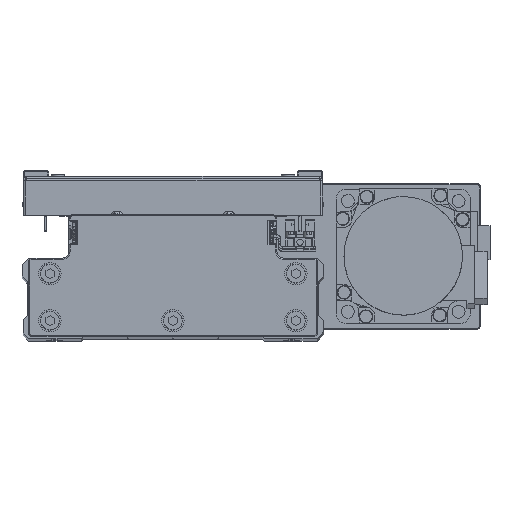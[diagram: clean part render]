
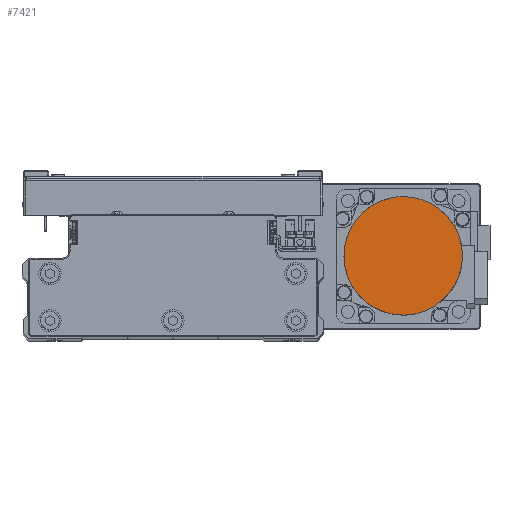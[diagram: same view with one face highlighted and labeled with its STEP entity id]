
A CAD part, top view. The second image highlights one B-rep face of the part: STEP entity #7421.
In plain terms, the highlighted planar face has unit normal (0, 0, 1) as drawn and (0, 0, -1) by its records, which use the part's own axes.
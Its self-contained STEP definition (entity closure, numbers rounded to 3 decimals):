
#38 = CARTESIAN_POINT ( 'NONE',  ( -19.965, -17.512, -109.7 ) ) ;
#257 = CARTESIAN_POINT ( 'NONE',  ( 11.744, -23.819, -109.7 ) ) ;
#471 = CARTESIAN_POINT ( 'NONE',  ( 17.512, 19.965, -109.7 ) ) ;
#675 = CARTESIAN_POINT ( 'NONE',  ( -13.28, 22.998, -109.7 ) ) ;
#3378 = CARTESIAN_POINT ( 'NONE',  ( -23.819, -11.744, -109.7 ) ) ;
#3582 = CARTESIAN_POINT ( 'NONE',  ( 3.469, -26.329, -109.7 ) ) ;
#3763 = CARTESIAN_POINT ( 'NONE',  ( 0., 0., -109.7 ) ) ;
#3779 = CARTESIAN_POINT ( 'NONE',  ( 22.998, 13.28, -109.7 ) ) ;
#3798 = CARTESIAN_POINT ( 'NONE',  ( 26.329, -3.469, -109.7 ) ) ;
#4003 = CARTESIAN_POINT ( 'NONE',  ( -6.871, 25.652, -109.7 ) ) ;
#4216 = CARTESIAN_POINT ( 'NONE',  ( -26.5, 1.734, -109.7 ) ) ;
#6671 = CARTESIAN_POINT ( 'NONE',  ( -26.329, -3.469, -109.7 ) ) ;
#6897 = CARTESIAN_POINT ( 'NONE',  ( -3.469, -26.329, -109.7 ) ) ;
#7087 = CARTESIAN_POINT ( 'NONE',  ( 25.652, 6.871, -109.7 ) ) ;
#7107 = CARTESIAN_POINT ( 'NONE',  ( 23.819, -11.744, -109.7 ) ) ;
#7307 = CARTESIAN_POINT ( 'NONE',  ( 1.734, 26.5, -109.7 ) ) ;
#7421 = ADVANCED_FACE ( 'NONE', ( #20589 ), #34038, .F. ) ;
#7538 = CARTESIAN_POINT ( 'NONE',  ( -25.147, 8.539, -109.7 ) ) ;
#7702 = ORIENTED_EDGE ( 'NONE', *, *, #19902, .F. ) ;
#10206 = CARTESIAN_POINT ( 'NONE',  ( -11.744, -23.819, -109.7 ) ) ;
#10414 = CARTESIAN_POINT ( 'NONE',  ( 26.5, 0., -109.7 ) ) ;
#10436 = CARTESIAN_POINT ( 'NONE',  ( 19.965, -17.512, -109.7 ) ) ;
#10622 = CARTESIAN_POINT ( 'NONE',  ( 8.539, 25.147, -109.7 ) ) ;
#10839 = CARTESIAN_POINT ( 'NONE',  ( -21.07, 16.165, -109.7 ) ) ;
#13524 = CARTESIAN_POINT ( 'NONE',  ( -17.512, -19.965, -109.7 ) ) ;
#13741 = CARTESIAN_POINT ( 'NONE',  ( 13.28, -22.998, -109.7 ) ) ;
#13951 = CARTESIAN_POINT ( 'NONE',  ( 16.165, 21.07, -109.7 ) ) ;
#14158 = CARTESIAN_POINT ( 'NONE',  ( -16.165, 21.07, -109.7 ) ) ;
#16866 = CARTESIAN_POINT ( 'NONE',  ( -22.998, -13.28, -109.7 ) ) ;
#17074 = CARTESIAN_POINT ( 'NONE',  ( 6.871, -25.652, -109.7 ) ) ;
#17251 = DIRECTION ( 'NONE',  ( 0., 0., 1. ) ) ;
#17269 = CARTESIAN_POINT ( 'NONE',  ( 21.07, 16.165, -109.7 ) ) ;
#17290 = CARTESIAN_POINT ( 'NONE',  ( 26.5, -1.734, -109.7 ) ) ;
#17495 = CARTESIAN_POINT ( 'NONE',  ( -8.539, 25.147, -109.7 ) ) ;
#17710 = CARTESIAN_POINT ( 'NONE',  ( -26.5, 0., -109.7 ) ) ;
#19902 = EDGE_CURVE ( 'NONE', #33889, #36146, #39218, .T. ) ;
#20194 = CARTESIAN_POINT ( 'NONE',  ( -25.652, -6.871, -109.7 ) ) ;
#20417 = CARTESIAN_POINT ( 'NONE',  ( -1.734, -26.5, -109.7 ) ) ;
#20589 = FACE_OUTER_BOUND ( 'NONE', #40183, .T. ) ;
#20604 = CARTESIAN_POINT ( 'NONE',  ( 25.147, 8.539, -109.7 ) ) ;
#20628 = CARTESIAN_POINT ( 'NONE',  ( 25.147, -8.539, -109.7 ) ) ;
#20826 = CARTESIAN_POINT ( 'NONE',  ( -1.734, 26.5, -109.7 ) ) ;
#21047 = CARTESIAN_POINT ( 'NONE',  ( -25.652, 6.871, -109.7 ) ) ;
#23512 = CARTESIAN_POINT ( 'NONE',  ( -26.5, 0., -109.7 ) ) ;
#23738 = CARTESIAN_POINT ( 'NONE',  ( -8.539, -25.147, -109.7 ) ) ;
#23935 = CARTESIAN_POINT ( 'NONE',  ( 26.5, 1.734, -109.7 ) ) ;
#23955 = CARTESIAN_POINT ( 'NONE',  ( 21.07, -16.165, -109.7 ) ) ;
#24141 = CARTESIAN_POINT ( 'NONE',  ( 6.871, 25.652, -109.7 ) ) ;
#24361 = CARTESIAN_POINT ( 'NONE',  ( -22.998, 13.28, -109.7 ) ) ;
#26376 = B_SPLINE_CURVE_WITH_KNOTS ( 'NONE', 3,
 ( #23512, #36945, #6671, #20194, #33653, #3378, #16866, #30341, #38, #13524, #27039, #40484, #10206, #23738, #37173, #6897, #20417, #33862, #3582, #17074, #30552, #257, #13741, #27256, #40705, #10436, #23955, #37384, #7107, #20628, #34077, #3798, #17290, #30781 ),
 .UNSPECIFIED., .F., .F.,
 ( 4, 2, 2, 2, 2, 2, 2, 2, 2, 2, 2, 2, 2, 2, 2, 2, 4 ),
 ( 0., 0.063, 0.125, 0.188, 0.25, 0.312, 0.375, 0.437, 0.5, 0.562, 0.625, 0.687, 0.75, 0.813, 0.875, 0.938, 1. ),
 .UNSPECIFIED. ) ;
#26779 = CARTESIAN_POINT ( 'NONE',  ( 26.5, 0., -109.7 ) ) ;
#27039 = CARTESIAN_POINT ( 'NONE',  ( -16.165, -21.07, -109.7 ) ) ;
#27256 = CARTESIAN_POINT ( 'NONE',  ( 16.165, -21.07, -109.7 ) ) ;
#27454 = CARTESIAN_POINT ( 'NONE',  ( 13.28, 22.998, -109.7 ) ) ;
#27666 = CARTESIAN_POINT ( 'NONE',  ( -17.512, 19.965, -109.7 ) ) ;
#30164 = CARTESIAN_POINT ( 'NONE',  ( -26.5, 0., -109.7 ) ) ;
#30341 = CARTESIAN_POINT ( 'NONE',  ( -21.07, -16.165, -109.7 ) ) ;
#30552 = CARTESIAN_POINT ( 'NONE',  ( 8.539, -25.147, -109.7 ) ) ;
#30741 = DIRECTION ( 'NONE',  ( 1., 0., 0. ) ) ;
#30757 = CARTESIAN_POINT ( 'NONE',  ( 19.965, 17.512, -109.7 ) ) ;
#30781 = CARTESIAN_POINT ( 'NONE',  ( 26.5, 0., -109.7 ) ) ;
#30981 = CARTESIAN_POINT ( 'NONE',  ( -11.744, 23.819, -109.7 ) ) ;
#31156 = EDGE_CURVE ( 'NONE', #36146, #33889, #26376, .T. ) ;
#33653 = CARTESIAN_POINT ( 'NONE',  ( -25.147, -8.539, -109.7 ) ) ;
#33862 = CARTESIAN_POINT ( 'NONE',  ( 1.734, -26.5, -109.7 ) ) ;
#33889 = VERTEX_POINT ( 'NONE', #26779 ) ;
#34038 = PLANE ( 'NONE',  #35134 ) ;
#34054 = CARTESIAN_POINT ( 'NONE',  ( 23.819, 11.744, -109.7 ) ) ;
#34077 = CARTESIAN_POINT ( 'NONE',  ( 25.652, -6.871, -109.7 ) ) ;
#34275 = CARTESIAN_POINT ( 'NONE',  ( -3.469, 26.329, -109.7 ) ) ;
#34493 = CARTESIAN_POINT ( 'NONE',  ( -26.329, 3.469, -109.7 ) ) ;
#35134 = AXIS2_PLACEMENT_3D ( 'NONE', #3763, #17251, #30741 ) ;
#36146 = VERTEX_POINT ( 'NONE', #30164 ) ;
#36945 = CARTESIAN_POINT ( 'NONE',  ( -26.5, -1.734, -109.7 ) ) ;
#37173 = CARTESIAN_POINT ( 'NONE',  ( -6.871, -25.652, -109.7 ) ) ;
#37365 = CARTESIAN_POINT ( 'NONE',  ( 26.329, 3.469, -109.7 ) ) ;
#37384 = CARTESIAN_POINT ( 'NONE',  ( 22.998, -13.28, -109.7 ) ) ;
#37578 = CARTESIAN_POINT ( 'NONE',  ( 3.469, 26.329, -109.7 ) ) ;
#37801 = CARTESIAN_POINT ( 'NONE',  ( -23.819, 11.744, -109.7 ) ) ;
#39218 = B_SPLINE_CURVE_WITH_KNOTS ( 'NONE', 3,
 ( #10414, #23935, #37365, #7087, #20604, #34054, #3779, #17269, #30757, #471, #13951, #27454, #40899, #10622, #24141, #37578, #7307, #20826, #34275, #4003, #17495, #30981, #675, #14158, #27666, #41114, #10839, #24361, #37801, #7538, #21047, #34493, #4216, #17710 ),
 .UNSPECIFIED., .F., .F.,
 ( 4, 2, 2, 2, 2, 2, 2, 2, 2, 2, 2, 2, 2, 2, 2, 2, 4 ),
 ( 0., 0.062, 0.125, 0.187, 0.25, 0.312, 0.375, 0.437, 0.5, 0.562, 0.625, 0.687, 0.75, 0.813, 0.875, 0.938, 1. ),
 .UNSPECIFIED. ) ;
#40183 = EDGE_LOOP ( 'NONE', ( #7702, #42736 ) ) ;
#40484 = CARTESIAN_POINT ( 'NONE',  ( -13.28, -22.998, -109.7 ) ) ;
#40705 = CARTESIAN_POINT ( 'NONE',  ( 17.512, -19.965, -109.7 ) ) ;
#40899 = CARTESIAN_POINT ( 'NONE',  ( 11.744, 23.819, -109.7 ) ) ;
#41114 = CARTESIAN_POINT ( 'NONE',  ( -19.965, 17.512, -109.7 ) ) ;
#42736 = ORIENTED_EDGE ( 'NONE', *, *, #31156, .F. ) ;
